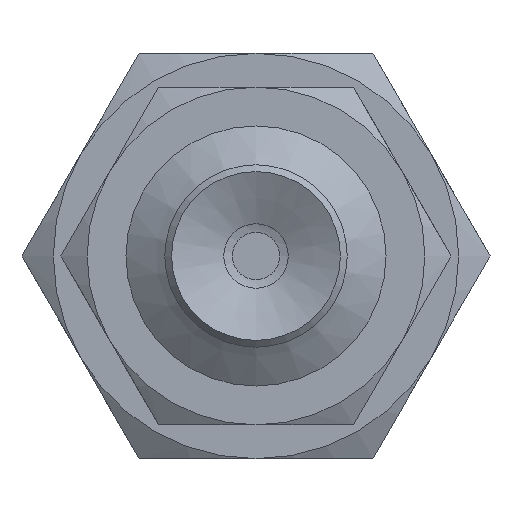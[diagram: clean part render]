
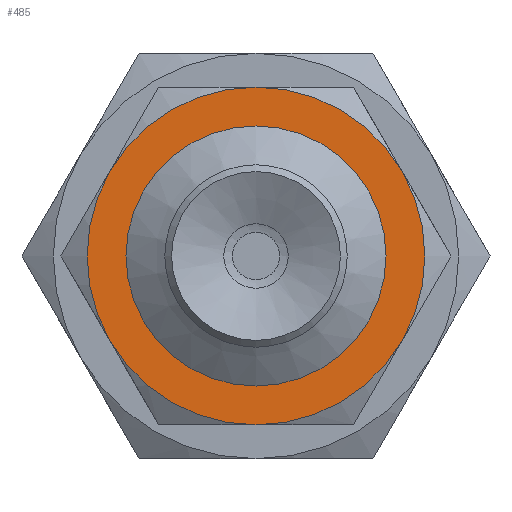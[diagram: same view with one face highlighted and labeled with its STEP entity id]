
A CAD part, front view. The second image highlights one B-rep face of the part: STEP entity #485.
In plain terms, the highlighted planar face has unit normal (0, -1, 0).
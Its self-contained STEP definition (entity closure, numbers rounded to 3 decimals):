
#485=ADVANCED_FACE('',(#718,#719),#720,.T.);
#718=FACE_BOUND('',#1002,.T.);
#719=FACE_OUTER_BOUND('',#1003,.T.);
#720=PLANE('',#1004);
#1002=EDGE_LOOP('',(#1708));
#1003=EDGE_LOOP('',(#1709,#1710,#1711,#1712,#1713,#1714));
#1004=AXIS2_PLACEMENT_3D('',#1715,#1716,#1717);
#1708=ORIENTED_EDGE('',*,*,#2040,.F.);
#1709=ORIENTED_EDGE('',*,*,#2013,.T.);
#1710=ORIENTED_EDGE('',*,*,#2012,.T.);
#1711=ORIENTED_EDGE('',*,*,#1971,.T.);
#1712=ORIENTED_EDGE('',*,*,#2015,.T.);
#1713=ORIENTED_EDGE('',*,*,#2001,.T.);
#1714=ORIENTED_EDGE('',*,*,#1984,.T.);
#1715=CARTESIAN_POINT('',(2.0,0.,0.0));
#1716=DIRECTION('',(0.0,-1.0,0.0));
#1717=DIRECTION('',(0.0,0.0,-1.0));
#1971=EDGE_CURVE('',#2234,#2245,#2247,.T.);
#1984=EDGE_CURVE('',#2270,#2267,#2271,.T.);
#2001=EDGE_CURVE('',#2299,#2270,#2300,.T.);
#2012=EDGE_CURVE('',#2258,#2234,#2318,.T.);
#2013=EDGE_CURVE('',#2267,#2258,#2319,.T.);
#2015=EDGE_CURVE('',#2245,#2299,#2321,.T.);
#2040=EDGE_CURVE('',#2363,#2363,#2364,.T.);
#2234=VERTEX_POINT('',#2870);
#2245=VERTEX_POINT('',#2891);
#2247=CIRCLE('',#2895,5.0);
#2258=VERTEX_POINT('',#2913);
#2267=VERTEX_POINT('',#2931);
#2270=VERTEX_POINT('',#2936);
#2271=CIRCLE('',#2937,5.0);
#2299=VERTEX_POINT('',#2986);
#2300=CIRCLE('',#2987,5.0);
#2318=CIRCLE('',#3008,5.0);
#2319=CIRCLE('',#3009,5.0);
#2321=CIRCLE('',#3013,5.0);
#2363=VERTEX_POINT('',#3124);
#2364=CIRCLE('',#3125,2.0);
#2870=CARTESIAN_POINT('',(4.33,0.0,2.5));
#2891=CARTESIAN_POINT('',(0.0,0.0,5.0));
#2895=AXIS2_PLACEMENT_3D('',#3332,#3333,#3334);
#2913=CARTESIAN_POINT('',(4.33,0.0,-2.5));
#2931=CARTESIAN_POINT('',(0.0,0.0,-5.0));
#2936=CARTESIAN_POINT('',(-4.33,0.0,-2.5));
#2937=AXIS2_PLACEMENT_3D('',#3343,#3344,#3345);
#2986=CARTESIAN_POINT('',(-4.33,0.,2.5));
#2987=AXIS2_PLACEMENT_3D('',#3359,#3360,#3361);
#3008=AXIS2_PLACEMENT_3D('',#3387,#3388,#3389);
#3009=AXIS2_PLACEMENT_3D('',#3390,#3391,#3392);
#3013=AXIS2_PLACEMENT_3D('',#3393,#3394,#3395);
#3124=CARTESIAN_POINT('',(0.0,0.,-2.0));
#3125=AXIS2_PLACEMENT_3D('',#3434,#3435,#3436);
#3332=CARTESIAN_POINT('',(0.0,0.,0.0));
#3333=DIRECTION('',(0.0,-1.0,0.0));
#3334=DIRECTION('',(0.0,0.0,-1.0));
#3343=CARTESIAN_POINT('',(0.0,0.,0.0));
#3344=DIRECTION('',(0.0,-1.0,0.0));
#3345=DIRECTION('',(0.0,0.0,-1.0));
#3359=CARTESIAN_POINT('',(0.0,0.,0.0));
#3360=DIRECTION('',(0.0,-1.0,0.0));
#3361=DIRECTION('',(0.0,0.0,-1.0));
#3387=CARTESIAN_POINT('',(0.0,0.,0.0));
#3388=DIRECTION('',(0.0,-1.0,0.0));
#3389=DIRECTION('',(0.0,0.0,-1.0));
#3390=CARTESIAN_POINT('',(0.0,0.,0.0));
#3391=DIRECTION('',(0.0,-1.0,0.0));
#3392=DIRECTION('',(0.0,0.0,-1.0));
#3393=CARTESIAN_POINT('',(0.0,0.,0.0));
#3394=DIRECTION('',(0.0,-1.0,0.0));
#3395=DIRECTION('',(0.0,0.0,-1.0));
#3434=CARTESIAN_POINT('',(0.0,0.,0.0));
#3435=DIRECTION('',(0.0,-1.0,0.0));
#3436=DIRECTION('',(0.0,0.0,-1.0));
